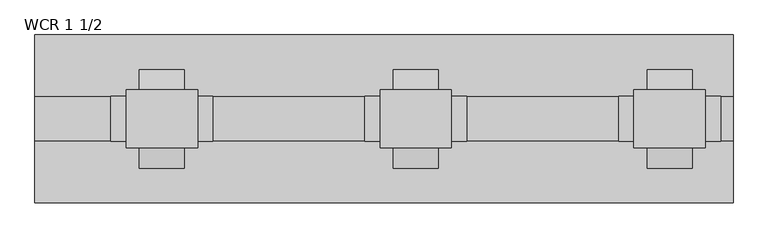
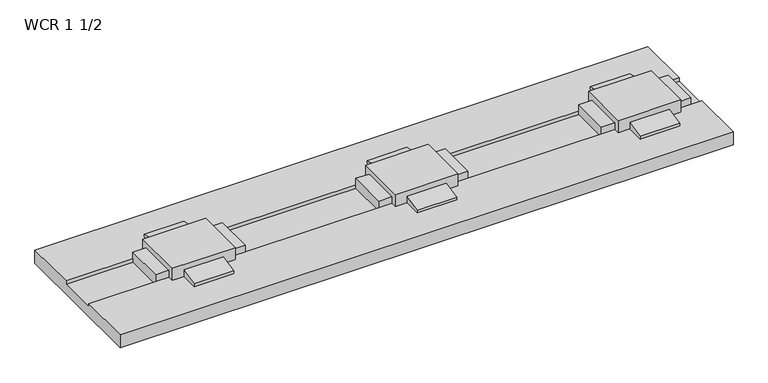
"""IFC4 building model written with IfcOpenShell, lengths in millimetres: proxy geometry, Duct-Walkercell-Wiremold : WCR 1 1/2."""

from ifc_helpers import new_model, si_unit, frame, origin, place, context, project, spatial, polyline, outline, extrude, faceted_brep, source, transform, mapped, element, save


def wcr_1_1_2_6aac2891(model_context):
    return source(origin(), model_context, "Body", "SolidModel", [
        faceted_brep([(1438.275, 69.85, 34.925), (1438.275, -69.85, 34.925), (1609.725, -69.85, 34.925), (1609.725, 69.85, 34.925), (1401.7625, -53.975, -9.525), (1401.7625, 53.975, -9.525), (1646.2375, 53.975, -9.525), (1646.2375, -53.975, -9.525), (1609.725, 53.975, 0.0), (1438.275, 53.975, 0.0), (1438.275, 69.85, 0.0), (1470.025, 69.85, 0.0), (1470.025, 118.2751, 0.0), (1577.975, 118.2751, 0.0), (1577.975, 69.85, 0.0), (1609.725, 69.85, 0.0), (1609.725, 53.975, 19.05), (1646.2375, 53.975, 19.05), (1401.7625, 53.975, 19.05), (1438.275, 53.975, 19.05), (1438.275, -53.975, 0.0), (1609.725, -53.975, 0.0), (1609.725, -69.85, 0.0), (1577.975, -69.85, 0.0), (1577.975, -118.2751, 0.0), (1470.025, -118.2751, 0.0), (1470.025, -69.85, 0.0), (1438.275, -69.85, 0.0), (1438.275, -53.975, 19.05), (1401.7625, -53.975, 19.05), (1646.2375, -53.975, 19.05), (1609.725, -53.975, 19.05), (1470.025, -69.85, 19.05), (1577.975, -69.85, 19.05), (1577.975, 69.85, 19.05), (1470.025, 69.85, 19.05), (1577.975, 118.2751, 7.9375), (1577.975, -118.2751, 7.9375), (1470.025, 118.2751, 7.9375), (1470.025, -118.2751, 7.9375)], [[[0, 1, 2, 3]], [[4, 5, 6, 7]], [[8, 9, 10, 11, 12, 13, 14, 15]], [[9, 8, 16, 17, 6, 5, 18, 19]], [[20, 21, 22, 23, 24, 25, 26, 27]], [[21, 20, 28, 29, 4, 7, 30, 31]], [[1, 0, 10, 9, 19, 28, 20, 27]], [[2, 1, 27, 26, 32, 33, 23, 22]], [[3, 2, 22, 21, 31, 16, 8, 15]], [[0, 3, 15, 14, 34, 35, 11, 10]], [[31, 30, 17, 16]], [[18, 29, 28, 19]], [[29, 18, 5, 4]], [[17, 30, 7, 6]], [[36, 34, 14, 13]], [[37, 24, 23, 33]], [[38, 12, 11, 35]], [[39, 32, 26, 25]], [[34, 36, 38, 35]], [[36, 13, 12, 38]], [[24, 37, 39, 25]], [[37, 33, 32, 39]]]),
        faceted_brep([(828.675, 69.85, 34.925), (828.675, -69.85, 34.925), (1000.125, -69.85, 34.925), (1000.125, 69.85, 34.925), (792.1625, -53.975, -9.525), (792.1625, 53.975, -9.525), (1036.6375, 53.975, -9.525), (1036.6375, -53.975, -9.525), (1000.125, 53.975, 0.0), (828.675, 53.975, 0.0), (828.675, 69.85, 0.0), (860.425, 69.85, 0.0), (860.425, 118.2751, 0.0), (968.375, 118.2751, 0.0), (968.375, 69.85, 0.0), (1000.125, 69.85, 0.0), (1000.125, 53.975, 19.05), (1036.6375, 53.975, 19.05), (792.1625, 53.975, 19.05), (828.675, 53.975, 19.05), (828.675, -53.975, 0.0), (1000.125, -53.975, 0.0), (1000.125, -69.85, 0.0), (968.375, -69.85, 0.0), (968.375, -118.2751, 0.0), (860.425, -118.2751, 0.0), (860.425, -69.85, 0.0), (828.675, -69.85, 0.0), (828.675, -53.975, 19.05), (792.1625, -53.975, 19.05), (1036.6375, -53.975, 19.05), (1000.125, -53.975, 19.05), (860.425, -69.85, 19.05), (968.375, -69.85, 19.05), (968.375, 69.85, 19.05), (860.425, 69.85, 19.05), (968.375, 118.2751, 7.9375), (968.375, -118.2751, 7.9375), (860.425, 118.2751, 7.9375), (860.425, -118.2751, 7.9375)], [[[0, 1, 2, 3]], [[4, 5, 6, 7]], [[8, 9, 10, 11, 12, 13, 14, 15]], [[9, 8, 16, 17, 6, 5, 18, 19]], [[20, 21, 22, 23, 24, 25, 26, 27]], [[21, 20, 28, 29, 4, 7, 30, 31]], [[1, 0, 10, 9, 19, 28, 20, 27]], [[2, 1, 27, 26, 32, 33, 23, 22]], [[3, 2, 22, 21, 31, 16, 8, 15]], [[0, 3, 15, 14, 34, 35, 11, 10]], [[31, 30, 17, 16]], [[18, 29, 28, 19]], [[29, 18, 5, 4]], [[17, 30, 7, 6]], [[36, 34, 14, 13]], [[37, 24, 23, 33]], [[38, 12, 11, 35]], [[39, 32, 26, 25]], [[34, 36, 38, 35]], [[36, 13, 12, 38]], [[24, 37, 39, 25]], [[37, 33, 32, 39]]]),
        faceted_brep([(219.075, 69.85, 34.925), (219.075, -69.85, 34.925), (390.525, -69.85, 34.925), (390.525, 69.85, 34.925), (182.5625, -53.975, -9.525), (182.5625, 53.975, -9.525), (427.0375, 53.975, -9.525), (427.0375, -53.975, -9.525), (390.525, 53.975, 0.0), (219.075, 53.975, 0.0), (219.075, 69.85, 0.0), (250.825, 69.85, 0.0), (250.825, 118.2751, 0.0), (358.775, 118.2751, 0.0), (358.775, 69.85, 0.0), (390.525, 69.85, 0.0), (390.525, 53.975, 19.05), (427.0375, 53.975, 19.05), (182.5625, 53.975, 19.05), (219.075, 53.975, 19.05), (219.075, -53.975, 0.0), (390.525, -53.975, 0.0), (390.525, -69.85, 0.0), (358.775, -69.85, 0.0), (358.775, -118.2751, 0.0), (250.825, -118.2751, 0.0), (250.825, -69.85, 0.0), (219.075, -69.85, 0.0), (219.075, -53.975, 19.05), (182.5625, -53.975, 19.05), (427.0375, -53.975, 19.05), (390.525, -53.975, 19.05), (250.825, -69.85, 19.05), (358.775, -69.85, 19.05), (358.775, 69.85, 19.05), (250.825, 69.85, 19.05), (358.775, 118.2751, 7.9375), (358.775, -118.2751, 7.9375), (250.825, 118.2751, 7.9375), (250.825, -118.2751, 7.9375)], [[[0, 1, 2, 3]], [[4, 5, 6, 7]], [[8, 9, 10, 11, 12, 13, 14, 15]], [[9, 8, 16, 17, 6, 5, 18, 19]], [[20, 21, 22, 23, 24, 25, 26, 27]], [[21, 20, 28, 29, 4, 7, 30, 31]], [[1, 0, 10, 9, 19, 28, 20, 27]], [[2, 1, 27, 26, 32, 33, 23, 22]], [[3, 2, 22, 21, 31, 16, 8, 15]], [[0, 3, 15, 14, 34, 35, 11, 10]], [[31, 30, 17, 16]], [[18, 29, 28, 19]], [[29, 18, 5, 4]], [[17, 30, 7, 6]], [[36, 34, 14, 13]], [[37, 24, 23, 33]], [[38, 12, 11, 35]], [[39, 32, 26, 25]], [[34, 36, 38, 35]], [[36, 13, 12, 38]], [[24, 37, 39, 25]], [[37, 33, 32, 39]]]),
        extrude(outline(polyline([(-53.975, 0.0), (-53.975, -9.525), (53.975, -9.525), (53.975, 0.0), (201.6125, 0.0), (201.6125, -38.1), (-201.6125, -38.1), (-201.6125, 0.0), (-53.975, 0.0)])), frame((0.0, 0.0, 0.0), z_axis=(1.0, 0.0, 0.0), x_axis=(0.0, 1.0, 0.0)), (0.0, 0.0, 1.0), 1676.4),
    ])


if __name__ == "__main__":
    model = new_model("IFC4")
    model_context = context("Model", 3, world=origin())
    ifc_project = project(units=[si_unit("LENGTHUNIT", "METRE", prefix="MILLI")], contexts=[model_context])
    site = spatial("IfcSite", under=ifc_project)
    building = spatial("IfcBuilding", under=site)
    placement = place(None, origin())
    wcr_1_1_2_shape = wcr_1_1_2_6aac2891(model_context)
    element("IfcBuildingElementProxy", 1, Name="Duct-Walkercell-Wiremold : WCR 1 1/2", ObjectType="Duct-Walkercell-Wiremold : WCR 1 1/2", at=placement, inside=building, context=model_context, shape_type="MappedRepresentation", body=[
        mapped(wcr_1_1_2_shape, transform((0.0, 0.0, 0.0), x_axis=(1.0, 0.0, 0.0), y_axis=(0.0, 1.0, 0.0), z_axis=(0.0, 0.0, 1.0))),
    ])
    save(model, "model.ifc")
